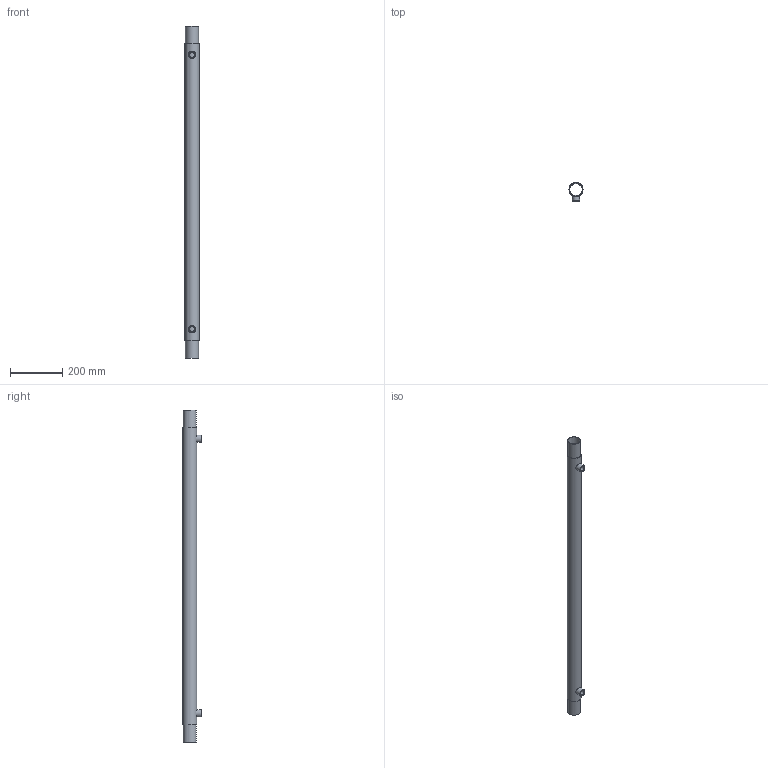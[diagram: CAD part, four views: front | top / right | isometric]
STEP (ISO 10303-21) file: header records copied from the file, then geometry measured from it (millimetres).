
FILE_DESCRIPTION(/* description */ (''),/* implementation_level */ '2;1');
FILE_NAME(/* name */ 'QB1-12.step',/* time_stamp */ '2025-07-22T10:21:16+02:00',/* author */ (''),/* organization */ (''),/* preprocessor_version */ 'ST-DEVELOPER v20.1',/* originating_system */ 'Autodesk Translation Framework v14.10.0.0',/* authorisation */ '');
FILE_SCHEMA (('AUTOMOTIVE_DESIGN { 1 0 10303 214 3 1 1 }'));
Length unit declared in the file: millimetre
Products named in the file (2): QB1-12; Loetmuffe
Assembly tree (1 placements, depth 2):
  QB1-12
    Loetmuffe
Bounding box: 54 x 72 x 1270 mm (x, y, z)
Volume: 674994.9 mm3; surface area: 767064.4 mm2
Topology: 4 solids, 4 shells, 20 faces, 34 edges, 24 vertices
Faces by surface type: cylinder 12, plane 8
Full cylindrical faces by diameter (mm): 18.901 x2, 20 x2, 28 x2, 47 x1, 50 x2, 54 x1
Entity records: 713 total; most frequent: CARTESIAN_POINT 249, DIRECTION 88, ORIENTED_EDGE 68, AXIS2_PLACEMENT_3D 39, EDGE_CURVE 34, EDGE_LOOP 30, VERTEX_POINT 24, FACE_OUTER_BOUND 20
